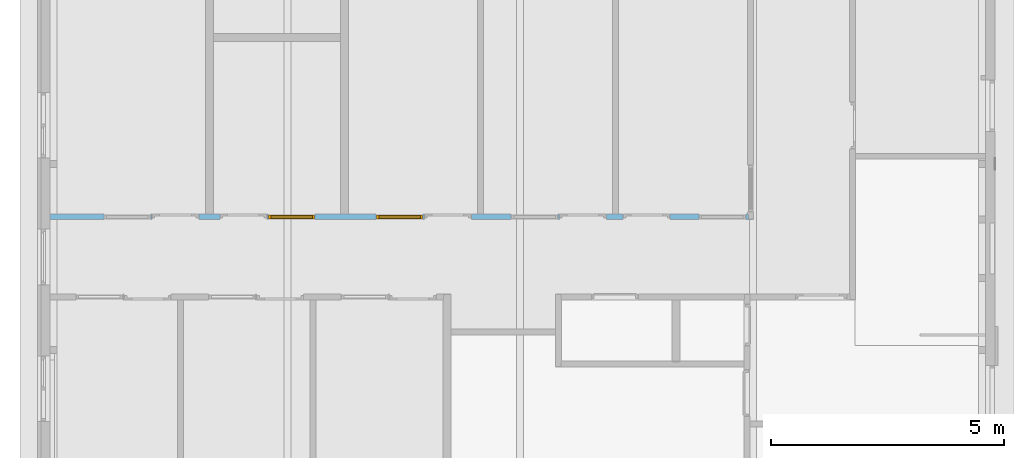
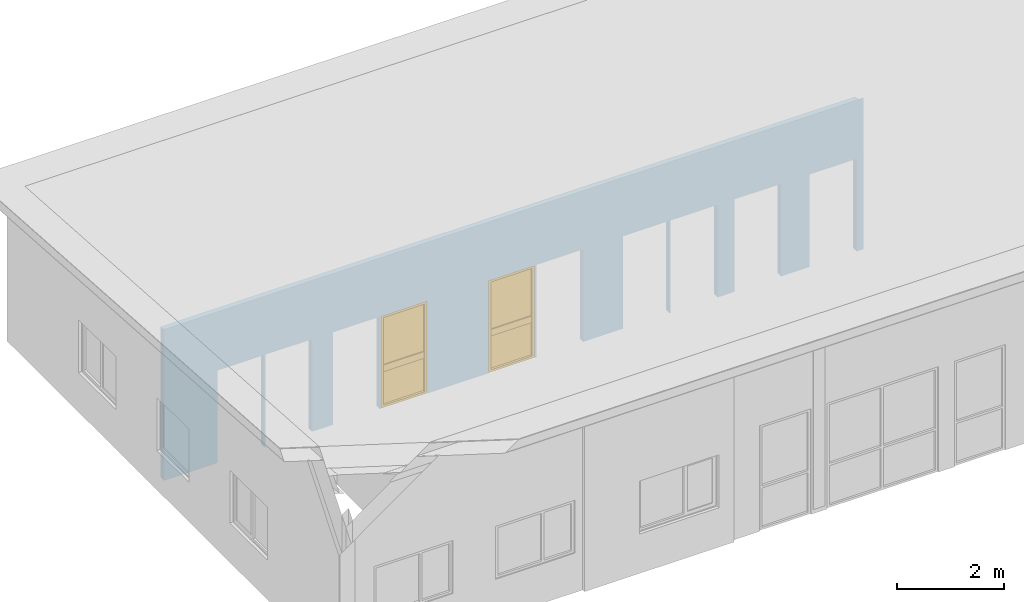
# One storey, part 16 of 37: 2 windows, 10 openings, plus 1 element that does not belong to this part.
"""IFC2X3 building model written with IfcOpenShell, lengths in millimetres."""

from ifc_helpers import new_model, entity, si_unit, converted_unit, frame, frame_2d, origin, origin_with_axes, place, context, subcontext, project, spatial, polyline, rectangle, outline, extrude, clip, halfspace, faceted_brep, material, layer, layer_set, layer_usage, type_object, element, fill, save


model = new_model("IFC2X3")

# Units and contexts
model_context = context("Model", 3, precision=1e-05, world=origin())
plan_context = context("Plan", 3, precision=1e-05, world=origin())
body_context = subcontext(model_context, "Body", "Model", "MODEL_VIEW")
ifc_project = project(units=[si_unit("LENGTHUNIT", "METRE", prefix="MILLI"), converted_unit("PLANEANGLEUNIT", "DEGREE", entity("IfcPlaneAngleMeasure", 0.0174532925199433), si_unit("PLANEANGLEUNIT", "RADIAN"), dimensions=[0, 0, 0, 0, 0, 0, 0]), si_unit("AREAUNIT", "SQUARE_METRE"), si_unit("VOLUMEUNIT", "CUBIC_METRE")], contexts=[model_context, plan_context])

# Building, storey
building_placement = place(None, origin())
building = spatial("IfcBuilding", under=ifc_project, at=building_placement, Name="HEKF Administrasjonbygg", CompositionType="ELEMENT")
storey_placement = place(building_placement, frame((0.0, 0.0, 9900.0), z_axis=(0.0, 0.0, 1.0), x_axis=(1.0, 0.0, 0.0)))
storey = spatial("IfcBuildingStorey", under=building, at=storey_placement, Name="Plan 2", CompositionType="ELEMENT", Elevation=9900.0)

# Wall, openings, windows
ifc_material_1 = material(Name="gips")
ifc_layer_1 = layer(ifc_material_1, 13.0)
ifc_material_2 = material(Name="riegel stål 100")
ifc_layer_2 = layer(ifc_material_2, 100.0)
ifc_material_3 = material(Name="gips")
ifc_layer_3 = layer(ifc_material_3, 13.0)
ifc_layer_set = layer_set([ifc_layer_1, ifc_layer_2, ifc_layer_3])
ifc_layer_usage = layer_usage(ifc_layer_set, "AXIS2", "POSITIVE", 0.0)
wall_placement = place(storey_placement, frame((24887.0, -5075.0, 0.0), z_axis=(0.0, 0.0, 1.0), x_axis=(-1.0, 0.0, 0.0)))
wall = element("IfcWallStandardCase", 1, at=wall_placement, inside=storey, material=ifc_layer_usage, context=body_context, shape_type="Clipping", body=[
    clip(extrude(outline(polyline([(-113.0, 126.0), (-113.0, 113.0), (-13.0, 113.0), (-13.0, 13.0), (0.0, 13.0), (0.0, 0.0), (2774.0, 0.0), (2774.0, 13.0), (2787.0, 13.0), (2787.0, 0.0), (14987.00000000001, 0.0), (14987.00000000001, 126.0), (-113.0, 126.0)])), origin_with_axes(), (0.0, 0.0, 1.0), 3446.733333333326), halfspace(frame((2787.0, 0.0, 3438.333333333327), z_axis=(-9.402241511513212e-18, 0.06651901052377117, -0.9977851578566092), x_axis=(1.0, 0.0, 0.0)), True)),
])
opening_1_placement = place(wall_placement, frame((9293.284477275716, 0.0, 0.0), z_axis=(0.0, 1.0, 0.0), x_axis=(0.0, 0.0, 1.0)))
opening_1 = element("IfcOpeningElement", 2, at=opening_1_placement, cuts=wall, Name="Window opening", ObjectType="Opening", context=body_context, shape_type="SweptSolid", body=[
    extrude(rectangle(XDim=2110.0, YDim=1010.0, at=frame_2d((1055.0, 505.0), x_axis=(1.0, 0.0))), origin_with_axes(), (0.0, 0.0, 1.0), 126.0),
])
opening_2_placement = place(wall_placement, frame((6972.0, 0.0, 0.0), z_axis=(0.0, 1.0, 0.0), x_axis=(0.0, 0.0, 1.0)))
opening_2 = element("IfcOpeningElement", 3, at=opening_2_placement, cuts=wall, Name="Window opening", ObjectType="Opening", context=body_context, shape_type="SweptSolid", body=[
    extrude(rectangle(XDim=2110.0, YDim=1010.0, at=frame_2d((1055.0, 505.0), x_axis=(1.0, 0.0))), origin_with_axes(), (0.0, 0.0, 1.0), 126.0),
])
opening_3_placement = place(wall_placement, frame((12823.28447727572, 0.0, 0.0), z_axis=(0.0, 1.0, 0.0), x_axis=(0.0, 0.0, 1.0)))
element("IfcOpeningElement", 4, at=opening_3_placement, cuts=wall, Name="Window opening", ObjectType="Opening", context=body_context, shape_type="SweptSolid", body=[
    extrude(rectangle(XDim=2110.0, YDim=1010.0, at=frame_2d((1055.0, 505.0), x_axis=(1.0, 0.0))), origin_with_axes(), (0.0, 0.0, 1.0), 126.0),
])
opening_4_placement = place(wall_placement, frame((4072.0, 0.0, 0.0), z_axis=(0.0, 1.0, 0.0), x_axis=(0.0, 0.0, 1.0)))
element("IfcOpeningElement", 5, at=opening_4_placement, cuts=wall, Name="Window opening", ObjectType="Opening", context=body_context, shape_type="SweptSolid", body=[
    extrude(rectangle(XDim=2110.0, YDim=1010.0, at=frame_2d((1055.0, 505.0), x_axis=(1.0, 0.0))), origin_with_axes(), (0.0, 0.0, 1.0), 126.0),
])
opening_5_placement = place(wall_placement, frame((37.0, 0.0, 0.0), z_axis=(0.0, 1.0, 0.0), x_axis=(0.0, 0.0, 1.0)))
element("IfcOpeningElement", 6, at=opening_5_placement, cuts=wall, Name="Window opening", ObjectType="Opening", context=body_context, shape_type="SweptSolid", body=[
    extrude(rectangle(XDim=2110.0, YDim=1010.0, at=frame_2d((1055.0, 505.0), x_axis=(1.0, 0.0))), origin_with_axes(), (0.0, 0.0, 1.0), 126.0),
])
opening_6_placement = place(wall_placement, frame((11788.28447727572, 0.0, 0.0), z_axis=(0.0, 1.0, 0.0), x_axis=(0.0, 0.0, 1.0)))
element("IfcOpeningElement", 7, at=opening_6_placement, cuts=wall, Name="garasjeport med glassfelter:45x6", ObjectType="Opening", context=body_context, shape_type="SweptSolid", body=[
    extrude(rectangle(XDim=2110.0, YDim=1010.0, at=frame_2d((1055.0, 505.0), x_axis=(1.0, 0.0))), origin_with_axes(), (0.0, 0.0, 1.0), 126.0),
])
opening_7_placement = place(wall_placement, frame((10328.28447727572, 0.0, 0.0), z_axis=(0.0, 1.0, 0.0), x_axis=(0.0, 0.0, 1.0)))
element("IfcOpeningElement", 8, at=opening_7_placement, cuts=wall, Name="garasjeport med glassfelter:45x6", ObjectType="Opening", context=body_context, shape_type="SweptSolid", body=[
    extrude(rectangle(XDim=2110.0, YDim=1010.0, at=frame_2d((1055.0, 505.0), x_axis=(1.0, 0.0))), origin_with_axes(), (0.0, 0.0, 1.0), 126.0),
])
opening_8_placement = place(wall_placement, frame((5937.0, 0.0, 0.0), z_axis=(0.0, 1.0, 0.0), x_axis=(0.0, 0.0, 1.0)))
element("IfcOpeningElement", 9, at=opening_8_placement, cuts=wall, Name="garasjeport med glassfelter:45x6", ObjectType="Opening", context=body_context, shape_type="SweptSolid", body=[
    extrude(rectangle(XDim=2110.0, YDim=1010.0, at=frame_2d((1055.0, 505.0), x_axis=(1.0, 0.0))), origin_with_axes(), (0.0, 0.0, 1.0), 126.0),
])
opening_9_placement = place(wall_placement, frame((3037.0, 0.0, 0.0), z_axis=(0.0, 1.0, 0.0), x_axis=(0.0, 0.0, 1.0)))
element("IfcOpeningElement", 10, at=opening_9_placement, cuts=wall, Name="garasjeport med glassfelter:45x6", ObjectType="Opening", context=body_context, shape_type="SweptSolid", body=[
    extrude(rectangle(XDim=2110.0, YDim=1010.0, at=frame_2d((1055.0, 505.0), x_axis=(1.0, 0.0))), origin_with_axes(), (0.0, 0.0, 1.0), 126.0),
])
opening_10_placement = place(wall_placement, frame((1664.0, 0.0, 0.0), z_axis=(0.0, 1.0, 0.0), x_axis=(0.0, 0.0, 1.0)))
element("IfcOpeningElement", 11, at=opening_10_placement, cuts=wall, Name="garasjeport med glassfelter:45x6", ObjectType="Opening", context=body_context, shape_type="SweptSolid", body=[
    extrude(rectangle(XDim=2110.0, YDim=1010.0, at=frame_2d((1055.0, 505.0), x_axis=(1.0, 0.0))), origin_with_axes(), (0.0, 0.0, 1.0), 126.0),
])
ifc_material_4 = material()
window_style_1 = type_object("IfcWindowStyle", Name="IV105", ConstructionType="NOTDEFINED", OperationType="USERDEFINED", ParameterTakesPrecedence=False, Sizeable=False)
window_1_placement = place(opening_1_placement, frame((0.0, 0.0, 0.0), z_axis=(1.0, 0.0, 0.0), x_axis=(0.0, 1.0, 0.0)))
window_1 = element("IfcWindow", 12, at=window_1_placement, inside=storey, type_object=window_style_1, material=ifc_material_4, Name="IV105", OverallHeight=2110.0, OverallWidth=1010.0, context=body_context, shape_type="Brep", body=[
    faceted_brep([(1000.0, 19.99999999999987, 2100.0), (1000.0, 20.0, -2.816687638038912e-15), (950.0, 20.0, -2.816687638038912e-15), (950.0, 19.99999999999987, 2100.0), (1000.0, 112.0, 2.816687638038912e-15), (1000.0, 111.9999999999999, 2100.0), (950.0, 111.9999999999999, 2100.0), (950.0, 112.0, 2.816687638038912e-15), (1000.0, 20.0, -2.816687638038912e-15), (1000.0, 19.99999999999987, 2100.0), (1000.0, 111.9999999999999, 2100.0), (1000.0, 112.0, 2.816687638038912e-15), (950.0, 20.0, -2.816687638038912e-15), (1000.0, 20.0, -2.816687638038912e-15), (1000.0, 112.0, 2.816687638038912e-15), (950.0, 112.0, 2.816687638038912e-15), (950.0, 19.99999999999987, 2100.0), (950.0, 20.0, -2.816687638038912e-15), (950.0, 112.0, 2.816687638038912e-15), (950.0, 111.9999999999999, 2100.0), (1000.0, 19.99999999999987, 2100.0), (950.0, 19.99999999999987, 2100.0), (950.0, 111.9999999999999, 2100.0), (1000.0, 111.9999999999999, 2100.0)], [[[0, 1, 2, 3]], [[4, 5, 6, 7]], [[8, 9, 10, 11]], [[12, 13, 14, 15]], [[16, 17, 18, 19]], [[20, 21, 22, 23]]], orient=[[False], [False], [False], [False], [False], [False]]),
    faceted_brep([(60.0, 19.99999999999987, 2100.0), (60.0, 20.0, -2.816687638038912e-15), (10.0, 20.0, -2.816687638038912e-15), (10.0, 19.99999999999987, 2100.0), (60.0, 112.0, 2.816687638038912e-15), (60.0, 111.9999999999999, 2100.0), (10.0, 111.9999999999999, 2100.0), (10.0, 112.0, 2.816687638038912e-15), (60.0, 20.0, -2.816687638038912e-15), (60.0, 19.99999999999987, 2100.0), (60.0, 111.9999999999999, 2100.0), (60.0, 112.0, 2.816687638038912e-15), (10.0, 20.0, -2.816687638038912e-15), (60.0, 20.0, -2.816687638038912e-15), (60.0, 112.0, 2.816687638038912e-15), (10.0, 112.0, 2.816687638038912e-15), (10.0, 19.99999999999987, 2100.0), (10.0, 20.0, -2.816687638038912e-15), (10.0, 112.0, 2.816687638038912e-15), (10.0, 111.9999999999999, 2100.0), (60.0, 19.99999999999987, 2100.0), (10.0, 19.99999999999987, 2100.0), (10.0, 111.9999999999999, 2100.0), (60.0, 111.9999999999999, 2100.0)], [[[0, 1, 2, 3]], [[4, 5, 6, 7]], [[8, 9, 10, 11]], [[12, 13, 14, 15]], [[16, 17, 18, 19]], [[20, 21, 22, 23]]], orient=[[False], [False], [False], [False], [False], [False]]),
    faceted_brep([(950.0, 20.0, 50.0), (950.0, 20.0, -2.816687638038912e-15), (60.00000000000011, 20.0, -2.816687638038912e-15), (60.00000000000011, 20.0, 50.0), (950.0, 112.0, 2.816687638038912e-15), (950.0, 112.0, 50.00000000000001), (60.00000000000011, 112.0, 50.00000000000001), (60.00000000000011, 112.0, 2.816687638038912e-15), (950.0, 20.0, -2.816687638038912e-15), (950.0, 20.0, 50.0), (950.0, 112.0, 50.00000000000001), (950.0, 112.0, 2.816687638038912e-15), (60.00000000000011, 20.0, -2.816687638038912e-15), (950.0, 20.0, -2.816687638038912e-15), (950.0, 112.0, 2.816687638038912e-15), (60.00000000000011, 112.0, 2.816687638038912e-15), (60.00000000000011, 20.0, 50.0), (60.00000000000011, 20.0, -2.816687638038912e-15), (60.00000000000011, 112.0, 2.816687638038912e-15), (60.00000000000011, 112.0, 50.00000000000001), (950.0, 20.0, 50.0), (60.00000000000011, 20.0, 50.0), (60.00000000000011, 112.0, 50.00000000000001), (950.0, 112.0, 50.00000000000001)], [[[0, 1, 2, 3]], [[4, 5, 6, 7]], [[8, 9, 10, 11]], [[12, 13, 14, 15]], [[16, 17, 18, 19]], [[20, 21, 22, 23]]], orient=[[False], [False], [False], [False], [False], [False]]),
    faceted_brep([(950.0, 19.99999999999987, 2100.000000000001), (950.0, 19.99999999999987, 2050.000000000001), (60.00000000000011, 19.99999999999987, 2050.000000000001), (60.00000000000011, 19.99999999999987, 2100.000000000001), (950.0, 111.9999999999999, 2050.000000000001), (950.0, 111.9999999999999, 2100.000000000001), (60.00000000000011, 111.9999999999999, 2100.000000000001), (60.00000000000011, 111.9999999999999, 2050.000000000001), (950.0, 19.99999999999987, 2050.000000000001), (950.0, 19.99999999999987, 2100.000000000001), (950.0, 111.9999999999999, 2100.000000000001), (950.0, 111.9999999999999, 2050.000000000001), (60.00000000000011, 19.99999999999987, 2050.000000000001), (950.0, 19.99999999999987, 2050.000000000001), (950.0, 111.9999999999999, 2050.000000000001), (60.00000000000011, 111.9999999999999, 2050.000000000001), (60.00000000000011, 19.99999999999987, 2100.000000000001), (60.00000000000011, 19.99999999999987, 2050.000000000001), (60.00000000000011, 111.9999999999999, 2050.000000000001), (60.00000000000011, 111.9999999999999, 2100.000000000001), (950.0, 19.99999999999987, 2100.000000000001), (60.00000000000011, 19.99999999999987, 2100.000000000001), (60.00000000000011, 111.9999999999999, 2100.000000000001), (950.0, 111.9999999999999, 2100.000000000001)], [[[0, 1, 2, 3]], [[4, 5, 6, 7]], [[8, 9, 10, 11]], [[12, 13, 14, 15]], [[16, 17, 18, 19]], [[20, 21, 22, 23]]], orient=[[False], [False], [False], [False], [False], [False]]),
    faceted_brep([(950.0, 40.99999999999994, 950.0), (950.0, 40.99999999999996, 800.0), (60.00000000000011, 40.99999999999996, 800.0), (60.00000000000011, 40.99999999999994, 950.0), (950.0, 90.99999999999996, 800.0), (950.0, 90.99999999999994, 950.0), (60.00000000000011, 90.99999999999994, 950.0), (60.00000000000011, 90.99999999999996, 800.0), (950.0, 40.99999999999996, 800.0), (950.0, 40.99999999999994, 950.0), (950.0, 90.99999999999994, 950.0), (950.0, 90.99999999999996, 800.0), (60.00000000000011, 40.99999999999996, 800.0), (950.0, 40.99999999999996, 800.0), (950.0, 90.99999999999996, 800.0), (60.00000000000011, 90.99999999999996, 800.0), (60.00000000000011, 40.99999999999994, 950.0), (60.00000000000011, 40.99999999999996, 800.0), (60.00000000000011, 90.99999999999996, 800.0), (60.00000000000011, 90.99999999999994, 950.0), (950.0, 40.99999999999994, 950.0), (60.00000000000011, 40.99999999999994, 950.0), (60.00000000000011, 90.99999999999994, 950.0), (950.0, 90.99999999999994, 950.0)], [[[0, 1, 2, 3]], [[4, 5, 6, 7]], [[8, 9, 10, 11]], [[12, 13, 14, 15]], [[16, 17, 18, 19]], [[20, 21, 22, 23]]], orient=[[False], [False], [False], [False], [False], [False]]),
    faceted_brep([(950.0, 66.0, 50.0), (60.00000000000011, 66.0, 50.0), (60.00000000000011, 65.99999999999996, 800.0), (950.0, 65.99999999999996, 800.0), (950.0, 67.0, 50.0), (950.0, 66.99999999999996, 800.0), (60.00000000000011, 66.99999999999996, 800.0), (60.00000000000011, 67.0, 50.0), (950.0, 66.0, 50.0), (950.0, 67.0, 50.0), (60.00000000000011, 67.0, 50.0), (60.00000000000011, 66.0, 50.0), (60.00000000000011, 66.0, 50.0), (60.00000000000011, 67.0, 50.0), (60.00000000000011, 66.99999999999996, 800.0), (60.00000000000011, 65.99999999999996, 800.0), (60.00000000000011, 65.99999999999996, 800.0), (60.00000000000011, 66.99999999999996, 800.0), (950.0, 66.99999999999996, 800.0), (950.0, 65.99999999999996, 800.0), (950.0, 65.99999999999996, 800.0), (950.0, 66.99999999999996, 800.0), (950.0, 67.0, 50.0), (950.0, 66.0, 50.0)], [[[0, 1, 2, 3]], [[4, 5, 6, 7]], [[8, 9, 10, 11]], [[12, 13, 14, 15]], [[16, 17, 18, 19]], [[20, 21, 22, 23]]], orient=[[False], [False], [False], [False], [False], [False]]),
    faceted_brep([(950.0, 65.99999999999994, 950.0000000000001), (60.00000000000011, 65.99999999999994, 950.0000000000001), (60.00000000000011, 65.99999999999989, 2050.000000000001), (950.0, 65.99999999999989, 2050.000000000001), (950.0, 66.99999999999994, 950.0000000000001), (950.0, 66.99999999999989, 2050.000000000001), (60.00000000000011, 66.99999999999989, 2050.000000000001), (60.00000000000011, 66.99999999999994, 950.0000000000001), (950.0, 65.99999999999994, 950.0000000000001), (950.0, 66.99999999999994, 950.0000000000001), (60.00000000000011, 66.99999999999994, 950.0000000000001), (60.00000000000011, 65.99999999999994, 950.0000000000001), (60.00000000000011, 65.99999999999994, 950.0000000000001), (60.00000000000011, 66.99999999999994, 950.0000000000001), (60.00000000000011, 66.99999999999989, 2050.000000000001), (60.00000000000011, 65.99999999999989, 2050.000000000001), (60.00000000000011, 65.99999999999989, 2050.000000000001), (60.00000000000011, 66.99999999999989, 2050.000000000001), (950.0, 66.99999999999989, 2050.000000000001), (950.0, 65.99999999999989, 2050.000000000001), (950.0, 65.99999999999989, 2050.000000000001), (950.0, 66.99999999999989, 2050.000000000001), (950.0, 66.99999999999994, 950.0000000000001), (950.0, 65.99999999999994, 950.0000000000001)], [[[0, 1, 2, 3]], [[4, 5, 6, 7]], [[8, 9, 10, 11]], [[12, 13, 14, 15]], [[16, 17, 18, 19]], [[20, 21, 22, 23]]], orient=[[False], [False], [False], [False], [False], [False]]),
])
fill(opening_1, window_1)
ifc_material_5 = material()
window_style_2 = type_object("IfcWindowStyle", Name="IV104", ConstructionType="NOTDEFINED", OperationType="USERDEFINED", ParameterTakesPrecedence=False, Sizeable=False)
window_2_placement = place(opening_2_placement, frame((0.0, 0.0, 0.0), z_axis=(1.0, 0.0, 0.0), x_axis=(0.0, 1.0, 0.0)))
window_2 = element("IfcWindow", 13, at=window_2_placement, inside=storey, type_object=window_style_2, material=ifc_material_5, Name="IV104", OverallHeight=2110.0, OverallWidth=1010.0, context=body_context, shape_type="Brep", body=[
    faceted_brep([(1000.0, 19.99999999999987, 2100.0), (1000.0, 20.0, -2.816687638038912e-15), (950.0, 20.0, -2.816687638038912e-15), (950.0, 19.99999999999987, 2100.0), (1000.0, 112.0, 2.816687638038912e-15), (1000.0, 111.9999999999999, 2100.0), (950.0, 111.9999999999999, 2100.0), (950.0, 112.0, 2.816687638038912e-15), (1000.0, 20.0, -2.816687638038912e-15), (1000.0, 19.99999999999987, 2100.0), (1000.0, 111.9999999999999, 2100.0), (1000.0, 112.0, 2.816687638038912e-15), (950.0, 20.0, -2.816687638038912e-15), (1000.0, 20.0, -2.816687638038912e-15), (1000.0, 112.0, 2.816687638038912e-15), (950.0, 112.0, 2.816687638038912e-15), (950.0, 19.99999999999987, 2100.0), (950.0, 20.0, -2.816687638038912e-15), (950.0, 112.0, 2.816687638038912e-15), (950.0, 111.9999999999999, 2100.0), (1000.0, 19.99999999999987, 2100.0), (950.0, 19.99999999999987, 2100.0), (950.0, 111.9999999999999, 2100.0), (1000.0, 111.9999999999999, 2100.0)], [[[0, 1, 2, 3]], [[4, 5, 6, 7]], [[8, 9, 10, 11]], [[12, 13, 14, 15]], [[16, 17, 18, 19]], [[20, 21, 22, 23]]], orient=[[False], [False], [False], [False], [False], [False]]),
    faceted_brep([(60.0, 19.99999999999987, 2100.0), (60.0, 20.0, -2.816687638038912e-15), (10.0, 20.0, -2.816687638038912e-15), (10.0, 19.99999999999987, 2100.0), (60.0, 112.0, 2.816687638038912e-15), (60.0, 111.9999999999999, 2100.0), (10.0, 111.9999999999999, 2100.0), (10.0, 112.0, 2.816687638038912e-15), (60.0, 20.0, -2.816687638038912e-15), (60.0, 19.99999999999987, 2100.0), (60.0, 111.9999999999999, 2100.0), (60.0, 112.0, 2.816687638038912e-15), (10.0, 20.0, -2.816687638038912e-15), (60.0, 20.0, -2.816687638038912e-15), (60.0, 112.0, 2.816687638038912e-15), (10.0, 112.0, 2.816687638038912e-15), (10.0, 19.99999999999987, 2100.0), (10.0, 20.0, -2.816687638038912e-15), (10.0, 112.0, 2.816687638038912e-15), (10.0, 111.9999999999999, 2100.0), (60.0, 19.99999999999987, 2100.0), (10.0, 19.99999999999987, 2100.0), (10.0, 111.9999999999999, 2100.0), (60.0, 111.9999999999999, 2100.0)], [[[0, 1, 2, 3]], [[4, 5, 6, 7]], [[8, 9, 10, 11]], [[12, 13, 14, 15]], [[16, 17, 18, 19]], [[20, 21, 22, 23]]], orient=[[False], [False], [False], [False], [False], [False]]),
    faceted_brep([(950.0, 20.0, 50.0), (950.0, 20.0, -2.816687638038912e-15), (60.00000000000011, 20.0, -2.816687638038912e-15), (60.00000000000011, 20.0, 50.0), (950.0, 112.0, 2.816687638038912e-15), (950.0, 112.0, 50.00000000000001), (60.00000000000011, 112.0, 50.00000000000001), (60.00000000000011, 112.0, 2.816687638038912e-15), (950.0, 20.0, -2.816687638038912e-15), (950.0, 20.0, 50.0), (950.0, 112.0, 50.00000000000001), (950.0, 112.0, 2.816687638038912e-15), (60.00000000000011, 20.0, -2.816687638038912e-15), (950.0, 20.0, -2.816687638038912e-15), (950.0, 112.0, 2.816687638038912e-15), (60.00000000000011, 112.0, 2.816687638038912e-15), (60.00000000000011, 20.0, 50.0), (60.00000000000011, 20.0, -2.816687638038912e-15), (60.00000000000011, 112.0, 2.816687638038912e-15), (60.00000000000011, 112.0, 50.00000000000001), (950.0, 20.0, 50.0), (60.00000000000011, 20.0, 50.0), (60.00000000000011, 112.0, 50.00000000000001), (950.0, 112.0, 50.00000000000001)], [[[0, 1, 2, 3]], [[4, 5, 6, 7]], [[8, 9, 10, 11]], [[12, 13, 14, 15]], [[16, 17, 18, 19]], [[20, 21, 22, 23]]], orient=[[False], [False], [False], [False], [False], [False]]),
    faceted_brep([(950.0, 19.99999999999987, 2100.000000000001), (950.0, 19.99999999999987, 2050.000000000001), (60.00000000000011, 19.99999999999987, 2050.000000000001), (60.00000000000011, 19.99999999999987, 2100.000000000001), (950.0, 111.9999999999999, 2050.000000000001), (950.0, 111.9999999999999, 2100.000000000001), (60.00000000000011, 111.9999999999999, 2100.000000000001), (60.00000000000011, 111.9999999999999, 2050.000000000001), (950.0, 19.99999999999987, 2050.000000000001), (950.0, 19.99999999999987, 2100.000000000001), (950.0, 111.9999999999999, 2100.000000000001), (950.0, 111.9999999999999, 2050.000000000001), (60.00000000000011, 19.99999999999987, 2050.000000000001), (950.0, 19.99999999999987, 2050.000000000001), (950.0, 111.9999999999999, 2050.000000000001), (60.00000000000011, 111.9999999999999, 2050.000000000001), (60.00000000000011, 19.99999999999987, 2100.000000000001), (60.00000000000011, 19.99999999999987, 2050.000000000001), (60.00000000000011, 111.9999999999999, 2050.000000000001), (60.00000000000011, 111.9999999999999, 2100.000000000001), (950.0, 19.99999999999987, 2100.000000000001), (60.00000000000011, 19.99999999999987, 2100.000000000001), (60.00000000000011, 111.9999999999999, 2100.000000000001), (950.0, 111.9999999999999, 2100.000000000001)], [[[0, 1, 2, 3]], [[4, 5, 6, 7]], [[8, 9, 10, 11]], [[12, 13, 14, 15]], [[16, 17, 18, 19]], [[20, 21, 22, 23]]], orient=[[False], [False], [False], [False], [False], [False]]),
    faceted_brep([(950.0, 40.99999999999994, 950.0), (950.0, 40.99999999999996, 800.0), (60.00000000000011, 40.99999999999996, 800.0), (60.00000000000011, 40.99999999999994, 950.0), (950.0, 90.99999999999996, 800.0), (950.0, 90.99999999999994, 950.0), (60.00000000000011, 90.99999999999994, 950.0), (60.00000000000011, 90.99999999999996, 800.0), (950.0, 40.99999999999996, 800.0), (950.0, 40.99999999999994, 950.0), (950.0, 90.99999999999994, 950.0), (950.0, 90.99999999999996, 800.0), (60.00000000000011, 40.99999999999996, 800.0), (950.0, 40.99999999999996, 800.0), (950.0, 90.99999999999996, 800.0), (60.00000000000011, 90.99999999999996, 800.0), (60.00000000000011, 40.99999999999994, 950.0), (60.00000000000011, 40.99999999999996, 800.0), (60.00000000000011, 90.99999999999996, 800.0), (60.00000000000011, 90.99999999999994, 950.0), (950.0, 40.99999999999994, 950.0), (60.00000000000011, 40.99999999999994, 950.0), (60.00000000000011, 90.99999999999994, 950.0), (950.0, 90.99999999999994, 950.0)], [[[0, 1, 2, 3]], [[4, 5, 6, 7]], [[8, 9, 10, 11]], [[12, 13, 14, 15]], [[16, 17, 18, 19]], [[20, 21, 22, 23]]], orient=[[False], [False], [False], [False], [False], [False]]),
    faceted_brep([(950.0, 66.0, 50.0), (60.00000000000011, 66.0, 50.0), (60.00000000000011, 65.99999999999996, 800.0), (950.0, 65.99999999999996, 800.0), (950.0, 67.0, 50.0), (950.0, 66.99999999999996, 800.0), (60.00000000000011, 66.99999999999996, 800.0), (60.00000000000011, 67.0, 50.0), (950.0, 66.0, 50.0), (950.0, 67.0, 50.0), (60.00000000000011, 67.0, 50.0), (60.00000000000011, 66.0, 50.0), (60.00000000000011, 66.0, 50.0), (60.00000000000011, 67.0, 50.0), (60.00000000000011, 66.99999999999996, 800.0), (60.00000000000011, 65.99999999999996, 800.0), (60.00000000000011, 65.99999999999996, 800.0), (60.00000000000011, 66.99999999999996, 800.0), (950.0, 66.99999999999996, 800.0), (950.0, 65.99999999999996, 800.0), (950.0, 65.99999999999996, 800.0), (950.0, 66.99999999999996, 800.0), (950.0, 67.0, 50.0), (950.0, 66.0, 50.0)], [[[0, 1, 2, 3]], [[4, 5, 6, 7]], [[8, 9, 10, 11]], [[12, 13, 14, 15]], [[16, 17, 18, 19]], [[20, 21, 22, 23]]], orient=[[False], [False], [False], [False], [False], [False]]),
    faceted_brep([(950.0, 65.99999999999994, 950.0000000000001), (60.00000000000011, 65.99999999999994, 950.0000000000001), (60.00000000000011, 65.99999999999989, 2050.000000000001), (950.0, 65.99999999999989, 2050.000000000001), (950.0, 66.99999999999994, 950.0000000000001), (950.0, 66.99999999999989, 2050.000000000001), (60.00000000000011, 66.99999999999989, 2050.000000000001), (60.00000000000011, 66.99999999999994, 950.0000000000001), (950.0, 65.99999999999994, 950.0000000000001), (950.0, 66.99999999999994, 950.0000000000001), (60.00000000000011, 66.99999999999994, 950.0000000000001), (60.00000000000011, 65.99999999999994, 950.0000000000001), (60.00000000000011, 65.99999999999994, 950.0000000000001), (60.00000000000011, 66.99999999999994, 950.0000000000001), (60.00000000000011, 66.99999999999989, 2050.000000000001), (60.00000000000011, 65.99999999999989, 2050.000000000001), (60.00000000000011, 65.99999999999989, 2050.000000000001), (60.00000000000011, 66.99999999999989, 2050.000000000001), (950.0, 66.99999999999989, 2050.000000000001), (950.0, 65.99999999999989, 2050.000000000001), (950.0, 65.99999999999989, 2050.000000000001), (950.0, 66.99999999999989, 2050.000000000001), (950.0, 66.99999999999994, 950.0000000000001), (950.0, 65.99999999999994, 950.0000000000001)], [[[0, 1, 2, 3]], [[4, 5, 6, 7]], [[8, 9, 10, 11]], [[12, 13, 14, 15]], [[16, 17, 18, 19]], [[20, 21, 22, 23]]], orient=[[False], [False], [False], [False], [False], [False]]),
])
fill(opening_2, window_2)

save(model, "model.ifc")
